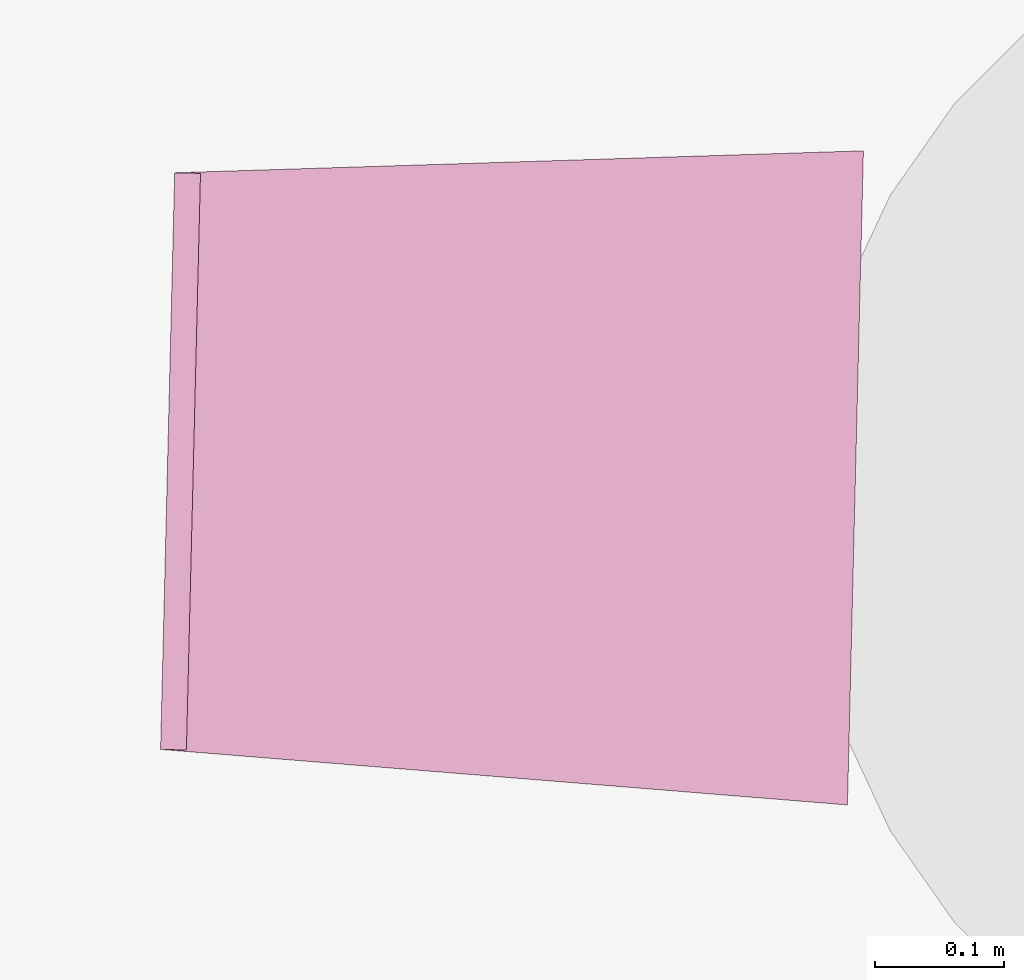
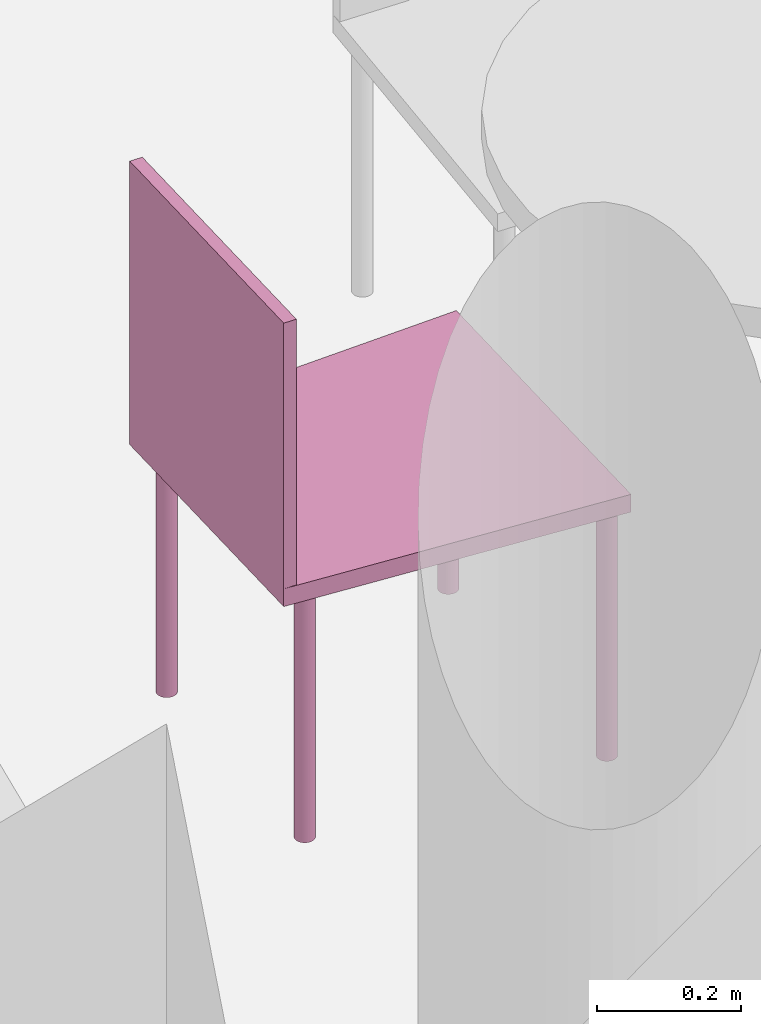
"""IFC4 building model written with IfcOpenShell, lengths in metres."""

from ifc_helpers import new_model, entity, si_unit, converted_unit, derived_unit, frame, origin, place, context, subcontext, project, spatial, faceted_brep, element, save


model = new_model("IFC4")

# Units and contexts
model_context = context("Model", 3, precision=1e-05, world=origin())
body_context = subcontext(model_context, "Body", "Model", "MODEL_VIEW")
ifc_project = project(units=[si_unit("LENGTHUNIT", "METRE"), si_unit("AREAUNIT", "SQUARE_METRE"), si_unit("VOLUMEUNIT", "CUBIC_METRE"), si_unit("MASSUNIT", "GRAM", prefix="KILO"), converted_unit("PLANEANGLEUNIT", "DEGREE", entity("IfcPlaneAngleMeasure", 0.0174532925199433), si_unit("PLANEANGLEUNIT", "RADIAN"), dimensions=[0, 0, 0, 0, 0, 0, 0]), derived_unit("THERMALTRANSMITTANCEUNIT", [(si_unit("POWERUNIT", "WATT"), 1), (si_unit("THERMODYNAMICTEMPERATUREUNIT", "KELVIN"), -1), (si_unit("LENGTHUNIT", "METRE"), -2)]), derived_unit("VOLUMETRICFLOWRATEUNIT", [(si_unit("LENGTHUNIT", "METRE"), 3), (converted_unit("TIMEUNIT", "hour", entity("IfcTimeMeasure", 3600.0), si_unit("TIMEUNIT", "SECOND"), dimensions=[0, 0, 1, 0, 0, 0, 0]), -1), (si_unit("LENGTHUNIT", "METRE"), -1)])], contexts=[model_context])

# Building, storeys
building_placement = place(None, origin())
building = spatial("IfcBuilding", under=ifc_project, at=building_placement, Name="HABITATGE PLURIFAMILIAR", CompositionType="ELEMENT")
storey_1_placement = place(building_placement, frame((0.0, 0.0, 6.25)))
storey_1 = spatial("IfcBuildingStorey", under=building, at=storey_1_placement, Name="PLANTA PRIMERA", CompositionType="ELEMENT", Elevation=6.25)
storey_2_placement = place(storey_1_placement, frame((0.0, 0.0, 3.35)))
storey_2 = spatial("IfcBuildingStorey", under=storey_1, at=storey_2_placement, Name="NOU", CompositionType="PARTIAL")

# Furniture
furniture_placement = place(storey_2_placement, frame((400.893145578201, 24.4048189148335, -3.35114412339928)))
element("IfcFurniture", 1, at=furniture_placement, inside=storey_2, Name="Cadira confient_P1", context=body_context, shape_type="Brep", body=[
    faceted_brep([(0.506918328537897, 0.0098962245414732, 0.0), (0.509516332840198, 0.010071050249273, 0.0), (0.51204450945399, 0.0106943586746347, 0.0), (0.514426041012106, 0.0117472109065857, 0.0), (0.516588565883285, 0.0131976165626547, 0.0), (0.518466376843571, 0.0150015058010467, 0.0), (0.520002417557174, 0.0171040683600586, 0.0), (0.521150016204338, 0.0194414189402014, 0.0), (0.521874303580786, 0.0219425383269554, 0.0), (0.52215327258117, 0.0245314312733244, 0.0), (0.521978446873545, 0.027129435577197, 0.0), (0.521355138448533, 0.0296576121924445, 0.0), (0.520302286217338, 0.032039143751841, 0.0), (0.518851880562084, 0.0342016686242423, 0.0), (0.517047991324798, 0.0360794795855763, 0.0), (0.514945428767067, 0.0376155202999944, 0.0), (0.512608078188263, 0.0387631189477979, 0.0), (0.510106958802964, 0.0394874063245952, 0.0), (0.507518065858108, 0.0397663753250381, 0.0), (0.504920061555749, 0.0395915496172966, 0.0), (0.502391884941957, 0.0389682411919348, 0.0), (0.500010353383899, 0.0379153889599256, 0.0), (0.49784782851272, 0.0364649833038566, 0.0), (0.495970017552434, 0.0346610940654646, 0.0), (0.494433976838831, 0.0325585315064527, 0.0), (0.493286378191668, 0.0302211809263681, 0.0), (0.49256209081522, 0.0277200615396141, 0.0), (0.492283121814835, 0.0251311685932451, 0.0), (0.49245794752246, 0.0225331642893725, 0.0), (0.493081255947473, 0.020004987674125, 0.0), (0.494134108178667, 0.0176234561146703, 0.0), (0.495584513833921, 0.015460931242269, 0.0), (0.497388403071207, 0.013583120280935, 0.0), (0.499490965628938, 0.0120470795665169, 0.0), (0.501828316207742, 0.0108994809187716, 0.0), (0.504329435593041, 0.0101751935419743, 0.0), (0.506918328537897, 0.0098962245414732, 0.448281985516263), (0.504329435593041, 0.0101751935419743, 0.448281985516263), (0.501828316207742, 0.0108994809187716, 0.448281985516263), (0.499490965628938, 0.0120470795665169, 0.448281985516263), (0.497388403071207, 0.013583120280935, 0.448281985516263), (0.495584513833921, 0.015460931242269, 0.448281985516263), (0.494134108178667, 0.0176234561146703, 0.448281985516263), (0.493081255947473, 0.020004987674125, 0.448281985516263), (0.49245794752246, 0.0225331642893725, 0.448281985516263), (0.492283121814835, 0.0251311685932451, 0.448281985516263), (0.49256209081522, 0.0277200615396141, 0.448281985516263), (0.493286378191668, 0.0302211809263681, 0.448281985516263), (0.494433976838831, 0.0325585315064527, 0.448281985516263), (0.495970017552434, 0.0346610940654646, 0.448281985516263), (0.49784782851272, 0.0364649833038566, 0.448281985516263), (0.500010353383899, 0.0379153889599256, 0.448281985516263), (0.502391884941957, 0.0389682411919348, 0.448281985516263), (0.504920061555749, 0.0395915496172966, 0.448281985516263), (0.507518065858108, 0.0397663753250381, 0.448281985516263), (0.510106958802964, 0.0394874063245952, 0.448281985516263), (0.512608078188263, 0.0387631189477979, 0.448281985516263), (0.514945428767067, 0.0376155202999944, 0.448281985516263), (0.517047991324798, 0.0360794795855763, 0.448281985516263), (0.518851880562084, 0.0342016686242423, 0.448281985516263), (0.520302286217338, 0.032039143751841, 0.448281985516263), (0.521355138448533, 0.0296576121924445, 0.448281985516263), (0.521978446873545, 0.027129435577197, 0.448281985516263), (0.52215327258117, 0.0245314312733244, 0.448281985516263), (0.521874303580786, 0.0219425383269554, 0.448281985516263), (0.521150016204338, 0.0194414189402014, 0.448281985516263), (0.520002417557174, 0.0171040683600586, 0.448281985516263), (0.518466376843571, 0.0150015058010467, 0.448281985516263), (0.516588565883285, 0.0131976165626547, 0.448281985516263), (0.514426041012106, 0.0117472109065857, 0.448281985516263), (0.51204450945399, 0.0106943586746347, 0.448281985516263), (0.509516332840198, 0.010071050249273, 0.448281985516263)], [[[0, 1, 2, 3, 4, 5, 6, 7, 8, 9, 10, 11, 12, 13, 14, 15, 16, 17, 18, 19, 20, 21, 22, 23, 24, 25, 26, 27, 28, 29, 30, 31, 32, 33, 34, 35]], [[36, 37, 38, 39, 40, 41, 42, 43, 44, 45, 46, 47, 48, 49, 50, 51, 52, 53, 54, 55, 56, 57, 58, 59, 60, 61, 62, 63, 64, 65, 66, 67, 68, 69, 70, 71]], [[35, 37, 36, 0]], [[34, 38, 37, 35]], [[33, 39, 38, 34]], [[32, 40, 39, 33]], [[31, 41, 40, 32]], [[30, 42, 41, 31]], [[29, 43, 42, 30]], [[28, 44, 43, 29]], [[27, 45, 44, 28]], [[26, 46, 45, 27]], [[25, 47, 46, 26]], [[24, 48, 47, 25]], [[23, 49, 48, 24]], [[22, 50, 49, 23]], [[21, 51, 50, 22]], [[20, 52, 51, 21]], [[19, 53, 52, 20]], [[18, 54, 53, 19]], [[17, 55, 54, 18]], [[16, 56, 55, 17]], [[15, 57, 56, 16]], [[14, 58, 57, 15]], [[13, 59, 58, 14]], [[12, 60, 59, 13]], [[11, 61, 60, 12]], [[10, 62, 61, 11]], [[9, 63, 62, 10]], [[8, 64, 63, 9]], [[7, 65, 64, 8]], [[6, 66, 65, 7]], [[5, 67, 66, 6]], [[4, 68, 67, 5]], [[3, 69, 68, 4]], [[2, 70, 69, 3]], [[1, 71, 70, 2]], [[0, 36, 71, 1]]], orient=[[False], [False], [False], [False], [False], [False], [False], [False], [False], [False], [False], [False], [False], [False], [False], [False], [False], [False], [False], [False], [False], [False], [False], [False], [False], [False], [False], [False], [False], [False], [False], [False], [False], [False], [False], [False], [False], [False]]),
    faceted_brep([(0.0453239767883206, 0.048816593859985, 0.0), (0.0479219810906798, 0.0489914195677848, 0.0), (0.0504501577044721, 0.0496147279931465, 0.0), (0.052831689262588, 0.0506675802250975, 0.0), (0.0549942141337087, 0.0521179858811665, 0.0), (0.056872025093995, 0.0539218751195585, 0.0), (0.0584080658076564, 0.0560244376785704, 0.0), (0.0595556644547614, 0.0583617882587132, 0.0), (0.0602799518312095, 0.0608629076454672, 0.0), (0.0605589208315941, 0.0634518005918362, 0.0), (0.060384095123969, 0.0660498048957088, 0.0), (0.0597607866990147, 0.0685779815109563, 0.0), (0.0587079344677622, 0.0709595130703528, 0.0), (0.0572575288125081, 0.0731220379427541, 0.0), (0.055453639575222, 0.0749998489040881, 0.0), (0.0533510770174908, 0.0765358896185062, 0.0), (0.0510137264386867, 0.0776834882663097, 0.0), (0.0485126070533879, 0.078407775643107, 0.0), (0.0459237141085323, 0.0786867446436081, 0.0), (0.0433257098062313, 0.0785119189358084, 0.0), (0.040797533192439, 0.0778886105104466, 0.0), (0.038416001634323, 0.0768357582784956, 0.0), (0.0362534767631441, 0.0753853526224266, 0.0), (0.0343756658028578, 0.0735814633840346, 0.0), (0.0328396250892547, 0.0714789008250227, 0.0), (0.0316920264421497, 0.0691415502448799, 0.0), (0.0309677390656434, 0.0666404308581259, 0.0), (0.0306887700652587, 0.0640515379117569, 0.0), (0.0308635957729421, 0.0614535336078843, 0.0), (0.0314869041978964, 0.0589253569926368, 0.0), (0.0325397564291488, 0.0565438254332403, 0.0), (0.0339901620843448, 0.054381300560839, 0.0), (0.035794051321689, 0.052503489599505, 0.0), (0.0378966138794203, 0.0509674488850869, 0.0), (0.0402339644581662, 0.0498198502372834, 0.0), (0.042735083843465, 0.0490955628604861, 0.0), (0.0453239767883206, 0.048816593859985, 0.448281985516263), (0.042735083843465, 0.0490955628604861, 0.448281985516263), (0.0402339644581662, 0.0498198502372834, 0.448281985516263), (0.0378966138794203, 0.0509674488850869, 0.448281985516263), (0.035794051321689, 0.052503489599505, 0.448281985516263), (0.0339901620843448, 0.054381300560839, 0.448281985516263), (0.0325397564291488, 0.0565438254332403, 0.448281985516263), (0.0314869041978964, 0.0589253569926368, 0.448281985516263), (0.0308635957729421, 0.0614535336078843, 0.448281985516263), (0.0306887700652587, 0.0640515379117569, 0.448281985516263), (0.0309677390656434, 0.0666404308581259, 0.448281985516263), (0.0316920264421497, 0.0691415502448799, 0.448281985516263), (0.0328396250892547, 0.0714789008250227, 0.448281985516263), (0.0343756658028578, 0.0735814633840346, 0.448281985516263), (0.0362534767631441, 0.0753853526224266, 0.448281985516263), (0.038416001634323, 0.0768357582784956, 0.448281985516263), (0.040797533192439, 0.0778886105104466, 0.448281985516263), (0.0433257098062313, 0.0785119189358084, 0.448281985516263), (0.0459237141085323, 0.0786867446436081, 0.448281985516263), (0.0485126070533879, 0.078407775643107, 0.448281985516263), (0.0510137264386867, 0.0776834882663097, 0.448281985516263), (0.0533510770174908, 0.0765358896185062, 0.448281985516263), (0.055453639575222, 0.0749998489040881, 0.448281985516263), (0.0572575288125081, 0.0731220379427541, 0.448281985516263), (0.0587079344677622, 0.0709595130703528, 0.448281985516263), (0.0597607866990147, 0.0685779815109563, 0.448281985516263), (0.060384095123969, 0.0660498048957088, 0.448281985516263), (0.0605589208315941, 0.0634518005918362, 0.448281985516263), (0.0602799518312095, 0.0608629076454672, 0.448281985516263), (0.0595556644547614, 0.0583617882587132, 0.448281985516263), (0.0584080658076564, 0.0560244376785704, 0.448281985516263), (0.056872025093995, 0.0539218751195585, 0.448281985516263), (0.0549942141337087, 0.0521179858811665, 0.448281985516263), (0.052831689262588, 0.0506675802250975, 0.448281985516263), (0.0504501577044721, 0.0496147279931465, 0.448281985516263), (0.0479219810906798, 0.0489914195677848, 0.448281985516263)], [[[0, 1, 2, 3, 4, 5, 6, 7, 8, 9, 10, 11, 12, 13, 14, 15, 16, 17, 18, 19, 20, 21, 22, 23, 24, 25, 26, 27, 28, 29, 30, 31, 32, 33, 34, 35]], [[36, 37, 38, 39, 40, 41, 42, 43, 44, 45, 46, 47, 48, 49, 50, 51, 52, 53, 54, 55, 56, 57, 58, 59, 60, 61, 62, 63, 64, 65, 66, 67, 68, 69, 70, 71]], [[35, 37, 36, 0]], [[34, 38, 37, 35]], [[33, 39, 38, 34]], [[32, 40, 39, 33]], [[31, 41, 40, 32]], [[30, 42, 41, 31]], [[29, 43, 42, 30]], [[28, 44, 43, 29]], [[27, 45, 44, 28]], [[26, 46, 45, 27]], [[25, 47, 46, 26]], [[24, 48, 47, 25]], [[23, 49, 48, 24]], [[22, 50, 49, 23]], [[21, 51, 50, 22]], [[20, 52, 51, 21]], [[19, 53, 52, 20]], [[18, 54, 53, 19]], [[17, 55, 54, 18]], [[16, 56, 55, 17]], [[15, 57, 56, 16]], [[14, 58, 57, 15]], [[13, 59, 58, 14]], [[12, 60, 59, 13]], [[11, 61, 60, 12]], [[10, 62, 61, 11]], [[9, 63, 62, 10]], [[8, 64, 63, 9]], [[7, 65, 64, 8]], [[6, 66, 65, 7]], [[5, 67, 66, 6]], [[4, 68, 67, 5]], [[3, 69, 68, 4]], [[2, 70, 69, 3]], [[1, 71, 70, 2]], [[0, 36, 71, 1]]], orient=[[False], [False], [False], [False], [False], [False], [False], [False], [False], [False], [False], [False], [False], [False], [False], [False], [False], [False], [False], [False], [False], [False], [False], [False], [False], [False], [False], [False], [False], [False], [False], [False], [False], [False], [False], [False], [False], [False]]),
    faceted_brep([(0.518150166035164, 0.469759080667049, 0.0), (0.520748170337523, 0.469933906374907, 0.0), (0.523276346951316, 0.470557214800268, 0.0), (0.525657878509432, 0.471610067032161, 0.0), (0.527820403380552, 0.47306047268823, 0.0), (0.529698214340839, 0.474864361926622, 0.0), (0.5312342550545, 0.476966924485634, 0.0), (0.532381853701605, 0.479304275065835, 0.0), (0.533106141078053, 0.481805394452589, 0.0), (0.533385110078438, 0.4843942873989, 0.0), (0.533210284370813, 0.486992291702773, 0.0), (0.532586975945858, 0.48952046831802, 0.0), (0.531534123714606, 0.491901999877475, 0.0), (0.530083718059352, 0.494064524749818, 0.0), (0.528279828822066, 0.495942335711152, 0.0), (0.526177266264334, 0.49747837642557, 0.0), (0.52383991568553, 0.498625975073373, 0.0), (0.52133879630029, 0.499350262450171, 0.0), (0.518749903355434, 0.499629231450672, 0.0), (0.516151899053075, 0.499454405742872, 0.0), (0.513623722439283, 0.49883109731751, 0.0), (0.511242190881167, 0.497778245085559, 0.0), (0.509079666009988, 0.49632783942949, 0.0), (0.507201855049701, 0.494523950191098, 0.0), (0.505665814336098, 0.492421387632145, 0.0), (0.504518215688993, 0.490084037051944, 0.0), (0.503793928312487, 0.48758291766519, 0.0), (0.503514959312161, 0.484994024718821, 0.0), (0.503689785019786, 0.482396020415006, 0.0), (0.50431309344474, 0.479867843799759, 0.0), (0.505365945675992, 0.477486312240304, 0.0), (0.506816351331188, 0.475323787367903, 0.0), (0.508620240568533, 0.473445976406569, 0.0), (0.510722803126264, 0.471909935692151, 0.0), (0.513060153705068, 0.470762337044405, 0.0), (0.515561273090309, 0.470038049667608, 0.0), (0.518150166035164, 0.469759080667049, 0.448281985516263), (0.515561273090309, 0.470038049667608, 0.448281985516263), (0.513060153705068, 0.470762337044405, 0.448281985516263), (0.510722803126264, 0.471909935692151, 0.448281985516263), (0.508620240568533, 0.473445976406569, 0.448281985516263), (0.506816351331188, 0.475323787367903, 0.448281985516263), (0.505365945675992, 0.477486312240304, 0.448281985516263), (0.50431309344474, 0.479867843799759, 0.448281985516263), (0.503689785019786, 0.482396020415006, 0.448281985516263), (0.503514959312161, 0.484994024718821, 0.448281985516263), (0.503793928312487, 0.48758291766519, 0.448281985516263), (0.504518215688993, 0.490084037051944, 0.448281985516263), (0.505665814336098, 0.492421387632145, 0.448281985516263), (0.507201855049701, 0.494523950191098, 0.448281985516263), (0.509079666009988, 0.49632783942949, 0.448281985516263), (0.511242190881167, 0.497778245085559, 0.448281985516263), (0.513623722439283, 0.49883109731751, 0.448281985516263), (0.516151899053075, 0.499454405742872, 0.448281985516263), (0.518749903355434, 0.499629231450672, 0.448281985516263), (0.52133879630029, 0.499350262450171, 0.448281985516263), (0.52383991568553, 0.498625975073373, 0.448281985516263), (0.526177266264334, 0.49747837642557, 0.448281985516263), (0.528279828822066, 0.495942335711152, 0.448281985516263), (0.530083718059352, 0.494064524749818, 0.448281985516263), (0.531534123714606, 0.491901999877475, 0.448281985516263), (0.532586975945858, 0.48952046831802, 0.448281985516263), (0.533210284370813, 0.486992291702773, 0.448281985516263), (0.533385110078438, 0.4843942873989, 0.448281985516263), (0.533106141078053, 0.481805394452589, 0.448281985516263), (0.532381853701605, 0.479304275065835, 0.448281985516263), (0.5312342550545, 0.476966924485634, 0.448281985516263), (0.529698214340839, 0.474864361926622, 0.448281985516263), (0.527820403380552, 0.47306047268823, 0.448281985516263), (0.525657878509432, 0.471610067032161, 0.448281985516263), (0.523276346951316, 0.470557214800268, 0.448281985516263), (0.520748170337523, 0.469933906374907, 0.448281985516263)], [[[0, 1, 2, 3, 4, 5, 6, 7, 8, 9, 10, 11, 12, 13, 14, 15, 16, 17, 18, 19, 20, 21, 22, 23, 24, 25, 26, 27, 28, 29, 30, 31, 32, 33, 34, 35]], [[36, 37, 38, 39, 40, 41, 42, 43, 44, 45, 46, 47, 48, 49, 50, 51, 52, 53, 54, 55, 56, 57, 58, 59, 60, 61, 62, 63, 64, 65, 66, 67, 68, 69, 70, 71]], [[35, 37, 36, 0]], [[34, 38, 37, 35]], [[33, 39, 38, 34]], [[32, 40, 39, 33]], [[31, 41, 40, 32]], [[30, 42, 41, 31]], [[29, 43, 42, 30]], [[28, 44, 43, 29]], [[27, 45, 44, 28]], [[26, 46, 45, 27]], [[25, 47, 46, 26]], [[24, 48, 47, 25]], [[23, 49, 48, 24]], [[22, 50, 49, 23]], [[21, 51, 50, 22]], [[20, 52, 51, 21]], [[19, 53, 52, 20]], [[18, 54, 53, 19]], [[17, 55, 54, 18]], [[16, 56, 55, 17]], [[15, 57, 56, 16]], [[14, 58, 57, 15]], [[13, 59, 58, 14]], [[12, 60, 59, 13]], [[11, 61, 60, 12]], [[10, 62, 61, 11]], [[9, 63, 62, 10]], [[8, 64, 63, 9]], [[7, 65, 64, 8]], [[6, 66, 65, 7]], [[5, 67, 66, 6]], [[4, 68, 67, 5]], [[3, 69, 68, 4]], [[2, 70, 69, 3]], [[1, 71, 70, 2]], [[0, 36, 71, 1]]], orient=[[False], [False], [False], [False], [False], [False], [False], [False], [False], [False], [False], [False], [False], [False], [False], [False], [False], [False], [False], [False], [False], [False], [False], [False], [False], [False], [False], [False], [False], [False], [False], [False], [False], [False], [False], [False], [False], [False]]),
    faceted_brep([(0.0550907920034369, 0.448697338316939, 0.0), (0.0576887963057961, 0.448872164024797, 0.0), (0.0602169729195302, 0.449495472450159, 0.0), (0.0625985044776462, 0.45054832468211, 0.0), (0.0647610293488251, 0.451998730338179, 0.0), (0.0666388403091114, 0.453802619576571, 0.0), (0.0681748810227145, 0.455905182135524, 0.0), (0.0693224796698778, 0.458242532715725, 0.0), (0.0700467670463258, 0.460743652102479, 0.0), (0.0703257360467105, 0.463332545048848, 0.0), (0.0701509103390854, 0.465930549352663, 0.0), (0.0695276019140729, 0.46845872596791, 0.0), (0.0684747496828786, 0.470840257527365, 0.0), (0.0670243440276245, 0.473002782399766, 0.0), (0.0652204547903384, 0.4748805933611, 0.0), (0.0631178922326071, 0.476416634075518, 0.0), (0.0607805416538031, 0.477564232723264, 0.0), (0.0582794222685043, 0.478288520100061, 0.0), (0.0556905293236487, 0.478567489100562, 0.0), (0.0530925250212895, 0.478392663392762, 0.0), (0.0505643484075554, 0.477769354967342, 0.0), (0.0481828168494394, 0.476716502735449, 0.0), (0.0460202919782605, 0.47526609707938, 0.0), (0.0441424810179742, 0.473462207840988, 0.0), (0.0426064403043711, 0.471359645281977, 0.0), (0.0414588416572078, 0.469022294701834, 0.0), (0.0407345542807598, 0.46652117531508, 0.0), (0.0404555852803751, 0.463932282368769, 0.0), (0.0406304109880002, 0.461334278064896, 0.0), (0.0412537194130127, 0.458806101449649, 0.0), (0.0423065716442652, 0.456424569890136, 0.0), (0.0437569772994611, 0.454262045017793, 0.0), (0.0455608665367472, 0.452384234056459, 0.0), (0.0476634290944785, 0.450848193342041, 0.0), (0.0500007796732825, 0.449700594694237, 0.0), (0.0525018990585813, 0.448976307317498, 0.0), (0.0550907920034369, 0.448697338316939, 0.448281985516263), (0.0525018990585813, 0.448976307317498, 0.448281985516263), (0.0500007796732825, 0.449700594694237, 0.448281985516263), (0.0476634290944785, 0.450848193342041, 0.448281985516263), (0.0455608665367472, 0.452384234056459, 0.448281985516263), (0.0437569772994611, 0.454262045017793, 0.448281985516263), (0.0423065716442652, 0.456424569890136, 0.448281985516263), (0.0412537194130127, 0.458806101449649, 0.448281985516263), (0.0406304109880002, 0.461334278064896, 0.448281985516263), (0.0404555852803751, 0.463932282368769, 0.448281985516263), (0.0407345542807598, 0.46652117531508, 0.448281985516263), (0.0414588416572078, 0.469022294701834, 0.448281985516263), (0.0426064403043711, 0.471359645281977, 0.448281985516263), (0.0441424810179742, 0.473462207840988, 0.448281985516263), (0.0460202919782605, 0.47526609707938, 0.448281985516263), (0.0481828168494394, 0.476716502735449, 0.448281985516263), (0.0505643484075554, 0.477769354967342, 0.448281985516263), (0.0530925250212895, 0.478392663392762, 0.448281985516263), (0.0556905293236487, 0.478567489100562, 0.448281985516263), (0.0582794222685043, 0.478288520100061, 0.448281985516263), (0.0607805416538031, 0.477564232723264, 0.448281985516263), (0.0631178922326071, 0.476416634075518, 0.448281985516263), (0.0652204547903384, 0.4748805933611, 0.448281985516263), (0.0670243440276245, 0.473002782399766, 0.448281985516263), (0.0684747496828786, 0.470840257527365, 0.448281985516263), (0.0695276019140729, 0.46845872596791, 0.448281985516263), (0.0701509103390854, 0.465930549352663, 0.448281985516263), (0.0703257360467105, 0.463332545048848, 0.448281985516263), (0.0700467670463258, 0.460743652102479, 0.448281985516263), (0.0693224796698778, 0.458242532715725, 0.448281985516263), (0.0681748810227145, 0.455905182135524, 0.448281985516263), (0.0666388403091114, 0.453802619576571, 0.448281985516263), (0.0647610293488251, 0.451998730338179, 0.448281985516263), (0.0625985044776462, 0.45054832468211, 0.448281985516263), (0.0602169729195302, 0.449495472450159, 0.448281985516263), (0.0576887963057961, 0.448872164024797, 0.448281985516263)], [[[0, 1, 2, 3, 4, 5, 6, 7, 8, 9, 10, 11, 12, 13, 14, 15, 16, 17, 18, 19, 20, 21, 22, 23, 24, 25, 26, 27, 28, 29, 30, 31, 32, 33, 34, 35]], [[36, 37, 38, 39, 40, 41, 42, 43, 44, 45, 46, 47, 48, 49, 50, 51, 52, 53, 54, 55, 56, 57, 58, 59, 60, 61, 62, 63, 64, 65, 66, 67, 68, 69, 70, 71]], [[35, 37, 36, 0]], [[34, 38, 37, 35]], [[33, 39, 38, 34]], [[32, 40, 39, 33]], [[31, 41, 40, 32]], [[30, 42, 41, 31]], [[29, 43, 42, 30]], [[28, 44, 43, 29]], [[27, 45, 44, 28]], [[26, 46, 45, 27]], [[25, 47, 46, 26]], [[24, 48, 47, 25]], [[23, 49, 48, 24]], [[22, 50, 49, 23]], [[21, 51, 50, 22]], [[20, 52, 51, 21]], [[19, 53, 52, 20]], [[18, 54, 53, 19]], [[17, 55, 54, 18]], [[16, 56, 55, 17]], [[15, 57, 56, 16]], [[14, 58, 57, 15]], [[13, 59, 58, 14]], [[12, 60, 59, 13]], [[11, 61, 60, 12]], [[10, 62, 61, 11]], [[9, 63, 62, 10]], [[8, 64, 63, 9]], [[7, 65, 64, 8]], [[6, 66, 65, 7]], [[5, 67, 66, 6]], [[4, 68, 67, 5]], [[3, 69, 68, 4]], [[2, 70, 69, 3]], [[1, 71, 70, 2]], [[0, 36, 71, 1]]], orient=[[False], [False], [False], [False], [False], [False], [False], [False], [False], [False], [False], [False], [False], [False], [False], [False], [False], [False], [False], [False], [False], [False], [False], [False], [False], [False], [False], [False], [False], [False], [False], [False], [False], [False], [False], [False], [False], [False]]),
    faceted_brep([(0.0109025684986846, 0.489377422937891, 0.418281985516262), (0.0, 0.0429957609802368, 0.418281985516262), (0.531716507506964, 0.0, 0.418281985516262), (0.544084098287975, 0.506363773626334, 0.418281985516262), (0.544084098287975, 0.506363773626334, 0.448281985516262), (0.531716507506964, 0.0, 0.448281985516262), (0.0, 0.0429957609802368, 0.448281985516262), (0.0109025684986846, 0.489377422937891, 0.448281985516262)], [[[0, 1, 2, 3]], [[4, 5, 6, 7]], [[3, 4, 7, 0]], [[2, 5, 4, 3]], [[1, 6, 5, 2]], [[0, 7, 6, 1]]], orient=[[False], [False], [False], [False], [False], [False]]),
    faceted_brep([(0.0308966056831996, 0.488889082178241, 0.448281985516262), (0.0109025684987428, 0.489377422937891, 0.448281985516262), (0.0, 0.0429957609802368, 0.448281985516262), (0.019994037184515, 0.0425074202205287, 0.448281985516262), (0.019994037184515, 0.0425074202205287, 0.898281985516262), (0.0, 0.0429957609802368, 0.898281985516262), (0.0109025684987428, 0.489377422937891, 0.898281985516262), (0.0308966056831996, 0.488889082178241, 0.898281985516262)], [[[0, 1, 2, 3]], [[4, 5, 6, 7]], [[3, 4, 7, 0]], [[2, 5, 4, 3]], [[1, 6, 5, 2]], [[0, 7, 6, 1]]], orient=[[False], [False], [False], [False], [False], [False]]),
])

save(model, "model.ifc")
